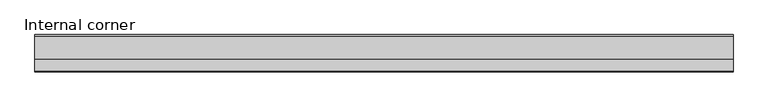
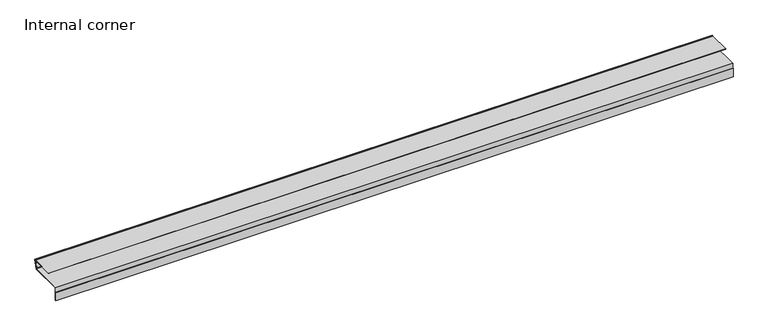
"""IFC4 building model written with IfcOpenShell, lengths in millimetres: beam geometry, TE-V-05_01_Internal corner i_BEAM : Internal corner."""

from ifc_helpers import new_model, si_unit, frame, origin, place, context, project, spatial, polyline, outline, extrude, source, transform, mapped, element, save


def internal_corner_4af84372(model_context):
    return source(origin(), model_context, "Body", "SweptSolid", [
        extrude(outline(polyline([(80.4617197, -2.4), (30.9830098, -2.4), (30.9830098, -1.6), (81.5043, -1.6), (77.4870945, -16.592415), (76.7143538, -16.3853598), (80.4617197, -2.4)])), frame((-762.7677265, 0.0, 0.0), z_axis=(1.0, 0.0, 0.0), x_axis=(0.0, 1.0, 0.0)), (0.0, 0.0, 1.0), 1550.1838189),
        extrude(outline(polyline([(77.1994161, -18.4469826), (81.9616865, -0.6739474), (84.6662789, -1.3986408), (79.3069308, -21.4), (4.4, -21.4), (4.4, -51.4), (1.6, -51.4), (1.6, -31.0), (2.4, -31.0), (2.4, -50.6), (3.6, -50.6), (3.6, -20.6), (78.6930692, -20.6), (83.686483, -1.9643262), (82.527372, -1.6537433), (77.9721568, -18.6540379), (77.1994161, -18.4469826)])), frame((-762.7677265, 0.0, 0.0), z_axis=(1.0, 0.0, 0.0), x_axis=(0.0, 1.0, 0.0)), (0.0, 0.0, 1.0), 1550.1838189),
    ])


if __name__ == "__main__":
    model = new_model("IFC4")
    model_context = context("Model", 3, world=origin())
    ifc_project = project(units=[si_unit("LENGTHUNIT", "METRE", prefix="MILLI")], contexts=[model_context])
    site = spatial("IfcSite", under=ifc_project)
    building = spatial("IfcBuilding", under=site)
    placement = place(None, origin())
    internal_corner_shape = internal_corner_4af84372(model_context)
    element("IfcBeam", 1, ObjectType="TE-V-05_01_Internal corner i_BEAM : Internal corner", at=placement, inside=building, context=model_context, shape_type="MappedRepresentation", body=[
        mapped(internal_corner_shape, transform((0.0, 0.0, 0.0), x_axis=(1.0, 0.0, 0.0), y_axis=(0.0, 1.0, 0.0), z_axis=(0.0, 0.0, 1.0))),
    ])
    save(model, "model.ifc")
